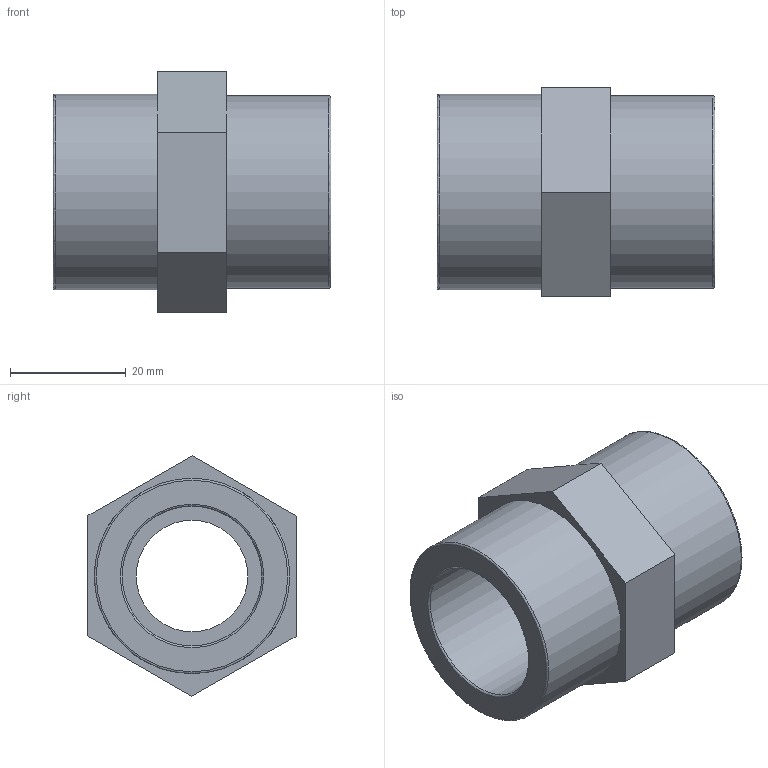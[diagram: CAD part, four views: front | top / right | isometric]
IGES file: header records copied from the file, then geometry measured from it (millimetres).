
Global section: file name: 050201010007.ipt; native system: Autodesk Inventor 2015; preprocessor: unknown; author: KIM; date: 20171207.164253; units: millimetre
Bounding box: 48 x 36.06 x 41.57 mm (x, y, z)
Volume: 23142.4 mm3; surface area: 10518.8 mm2
Topology: 1 solids, 1 shells, 21 faces, 55 edges, 40 vertices
Faces by surface type: plane 12, revolution 7, cylinder 2
Full cylindrical faces by diameter (mm): 33.249 x1, 33.764 x1
